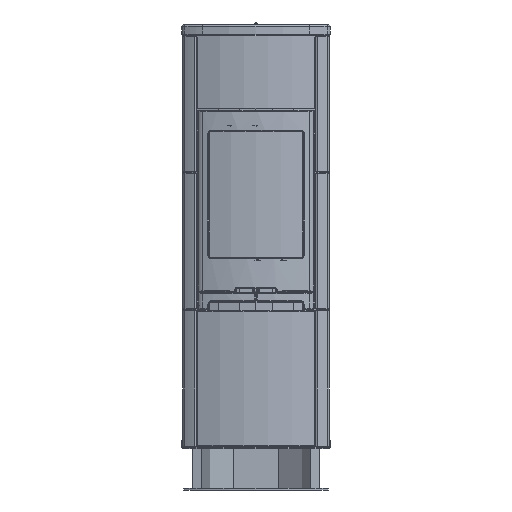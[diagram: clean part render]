
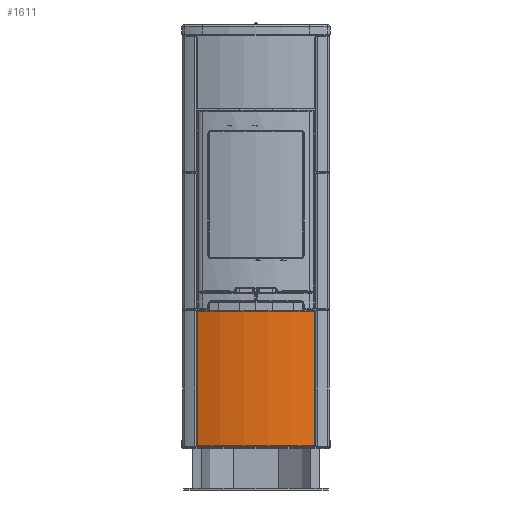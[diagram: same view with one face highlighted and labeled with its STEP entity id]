
A CAD part, front view. The second image highlights one B-rep face of the part: STEP entity #1611.
In plain terms, the highlighted cylindrical face has radius 590 mm (diameter 1180 mm), a partial arc.
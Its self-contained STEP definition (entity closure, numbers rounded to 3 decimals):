
#1611 = ADVANCED_FACE( 'NONE', ( #4113 ), #4114, .T. );
#4113 = FACE_OUTER_BOUND( '', #9633, .T. );
#4114 = CYLINDRICAL_SURFACE( '', #9634, 590. );
#9633 = EDGE_LOOP( '', ( #31415, #31416, #31417, #31418 ) );
#9634 = AXIS2_PLACEMENT_3D( '', #31419, #31420, #31421 );
#31415 = ORIENTED_EDGE( '', *, *, #40181, .T. );
#31416 = ORIENTED_EDGE( '', *, *, #40468, .T. );
#31417 = ORIENTED_EDGE( '', *, *, #40469, .T. );
#31418 = ORIENTED_EDGE( '', *, *, #40470, .T. );
#31419 = CARTESIAN_POINT( '', ( 0., 408.295, 510.5 ) );
#31420 = DIRECTION( '', ( 0., 0., -1. ) );
#31421 = DIRECTION( '', ( -1., 0., 0. ) );
#40181 = EDGE_CURVE( 'NONE', #44390, #44391, #44392, .T. );
#40468 = EDGE_CURVE( 'NONE', #44391, #44855, #44856, .T. );
#40469 = EDGE_CURVE( 'NONE', #44855, #44529, #44857, .T. );
#40470 = EDGE_CURVE( 'NONE', #44529, #44390, #44858, .T. );
#44390 = VERTEX_POINT( 'NONE', #52696 );
#44391 = VERTEX_POINT( 'NONE', #52697 );
#44392 = CIRCLE( '', #52698, 590. );
#44529 = VERTEX_POINT( 'NONE', #53824 );
#44855 = VERTEX_POINT( 'NONE', #54764 );
#44856 = LINE( '', #54765, #54766 );
#44857 = CIRCLE( '', #54767, 590. );
#44858 = LINE( '', #54768, #54769 );
#52696 = CARTESIAN_POINT( '', ( -220.119, -139.106, 3. ) );
#52697 = CARTESIAN_POINT( '', ( 220.119, -139.106, 3. ) );
#52698 = AXIS2_PLACEMENT_3D( '', #75530, #75531, #75532 );
#53824 = CARTESIAN_POINT( '', ( -220.119, -139.106, 507.5 ) );
#54764 = CARTESIAN_POINT( '', ( 220.119, -139.106, 507.5 ) );
#54765 = CARTESIAN_POINT( '', ( 220.119, -139.106, 510.5 ) );
#54766 = VECTOR( '', #75887, 1000. );
#54767 = AXIS2_PLACEMENT_3D( '', #75888, #75889, #75890 );
#54768 = CARTESIAN_POINT( '', ( -220.119, -139.106, 510.5 ) );
#54769 = VECTOR( '', #75891, 1000. );
#75530 = CARTESIAN_POINT( '', ( 0., 408.295, 3. ) );
#75531 = DIRECTION( '', ( 0., 0., 1. ) );
#75532 = DIRECTION( '', ( -1., 0., 0. ) );
#75887 = DIRECTION( '', ( 0., 0., 1. ) );
#75888 = CARTESIAN_POINT( '', ( 0., 408.295, 507.5 ) );
#75889 = DIRECTION( '', ( 0., 0., -1. ) );
#75890 = DIRECTION( '', ( -1., 0., 0. ) );
#75891 = DIRECTION( '', ( 0., 0., -1. ) );
